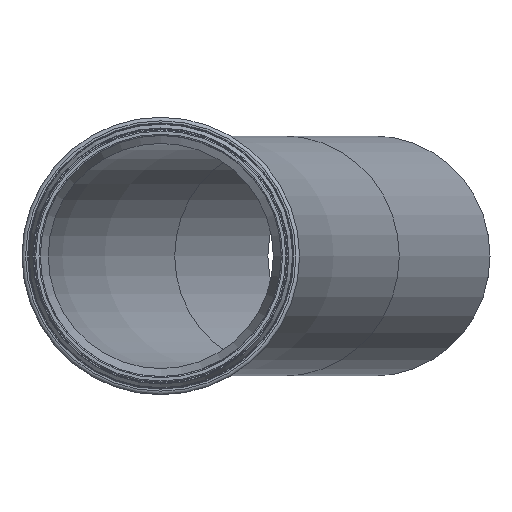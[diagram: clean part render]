
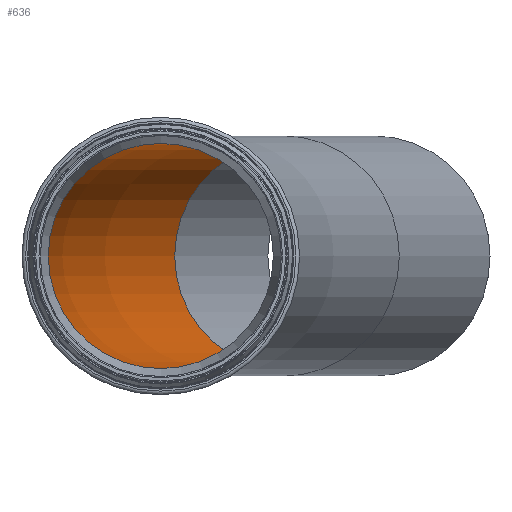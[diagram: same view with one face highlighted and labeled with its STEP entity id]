
A CAD part, left-side view. The second image highlights one B-rep face of the part: STEP entity #636.
In plain terms, the highlighted toroidal (fillet/blend) face has major radius 3000 mm and minor radius 93.8 mm.
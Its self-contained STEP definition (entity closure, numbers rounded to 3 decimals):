
#26=TOROIDAL_SURFACE('',#704,3000.,93.8);
#96=FACE_OUTER_BOUND('',#138,.T.);
#138=EDGE_LOOP('',(#435,#436,#437,#438,#439));
#186=CIRCLE('',#705,93.8);
#187=CIRCLE('',#706,2906.2);
#188=CIRCLE('',#707,93.8);
#189=CIRCLE('',#708,93.8);
#267=VERTEX_POINT('',#1098);
#268=VERTEX_POINT('',#1100);
#269=VERTEX_POINT('',#1102);
#333=EDGE_CURVE('',#267,#267,#186,.T.);
#334=EDGE_CURVE('',#267,#268,#187,.T.);
#335=EDGE_CURVE('',#268,#269,#188,.T.);
#336=EDGE_CURVE('',#269,#268,#189,.T.);
#435=ORIENTED_EDGE('',*,*,#333,.T.);
#436=ORIENTED_EDGE('',*,*,#334,.T.);
#437=ORIENTED_EDGE('',*,*,#335,.T.);
#438=ORIENTED_EDGE('',*,*,#336,.T.);
#439=ORIENTED_EDGE('',*,*,#334,.F.);
#636=ADVANCED_FACE('',(#96),#26,.F.);
#704=AXIS2_PLACEMENT_3D('',#1097,#835,#836);
#705=AXIS2_PLACEMENT_3D('',#1099,#837,#838);
#706=AXIS2_PLACEMENT_3D('',#1101,#839,#840);
#707=AXIS2_PLACEMENT_3D('',#1103,#841,#842);
#708=AXIS2_PLACEMENT_3D('',#1104,#843,#844);
#835=DIRECTION('center_axis',(0.,0.,-1.));
#836=DIRECTION('ref_axis',(-1.,0.,0.));
#837=DIRECTION('center_axis',(-1.,0.,0.));
#838=DIRECTION('ref_axis',(0.,0.,1.));
#839=DIRECTION('center_axis',(0.,0.,-1.));
#840=DIRECTION('ref_axis',(-1.,0.,0.));
#841=DIRECTION('center_axis',(0.966,-0.259,0.));
#842=DIRECTION('ref_axis',(0.259,0.966,0.));
#843=DIRECTION('center_axis',(0.966,-0.259,0.));
#844=DIRECTION('ref_axis',(0.259,0.966,0.));
#1097=CARTESIAN_POINT('Origin',(425.601,-3000.,0.));
#1098=CARTESIAN_POINT('',(425.601,-93.8,0.));
#1099=CARTESIAN_POINT('Origin',(425.601,0.,
0.));
#1100=CARTESIAN_POINT('',(1177.781,-192.826,0.));
#1101=CARTESIAN_POINT('Origin',(425.601,-3000.,0.));
#1102=CARTESIAN_POINT('',(1202.058,-102.223,-93.8));
#1103=CARTESIAN_POINT('Origin',(1202.058,-102.223,0.));
#1104=CARTESIAN_POINT('Origin',(1202.058,-102.223,0.));
